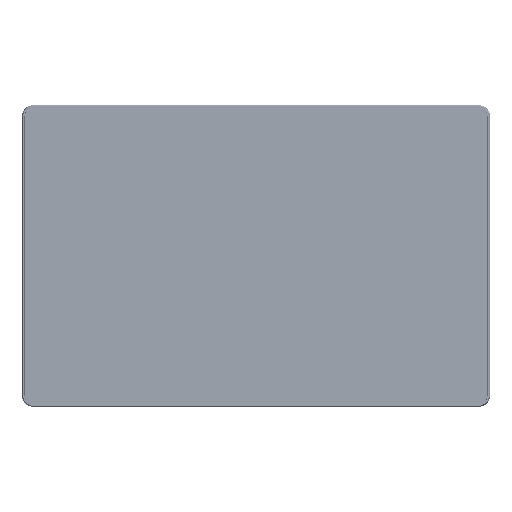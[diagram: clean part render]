
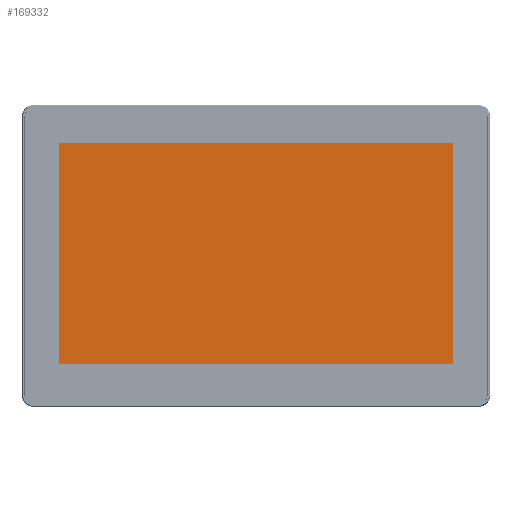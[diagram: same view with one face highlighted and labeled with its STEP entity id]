
A CAD part, top view. The second image highlights one B-rep face of the part: STEP entity #169332.
In plain terms, the highlighted planar face has unit normal (0, 0, 1).
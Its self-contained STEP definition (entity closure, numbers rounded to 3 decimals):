
#2635 = VECTOR ( 'NONE', #269413, 1000. ) ;
#10203 = EDGE_CURVE ( 'NONE', #57799, #190001, #176041, .T. ) ;
#12793 = LINE ( 'NONE', #130580, #98405 ) ;
#15147 = ORIENTED_EDGE ( 'NONE', *, *, #202396, .F. ) ;
#15370 = CARTESIAN_POINT ( 'NONE',  ( -172.75, 0.66, 1.809 ) ) ;
#24996 = PLANE ( 'NONE',  #76168 ) ;
#26488 = DIRECTION ( 'NONE',  ( 0., 1., 0. ) ) ;
#43425 = FACE_OUTER_BOUND ( 'NONE', #49850, .T. ) ;
#43500 = CARTESIAN_POINT ( 'NONE',  ( 0., -96.74, 1.809 ) ) ;
#45905 = CARTESIAN_POINT ( 'NONE',  ( 172.75, 98.06, 1.809 ) ) ;
#47985 = DIRECTION ( 'NONE',  ( 0., 0., -1. ) ) ;
#48055 = LINE ( 'NONE', #43500, #110900 ) ;
#49850 = EDGE_LOOP ( 'NONE', ( #296313, #15147, #251440, #152094 ) ) ;
#57799 = VERTEX_POINT ( 'NONE', #203013 ) ;
#75484 = VECTOR ( 'NONE', #79400, 1000. ) ;
#76168 = AXIS2_PLACEMENT_3D ( 'NONE', #190220, #47985, #26488 ) ;
#79400 = DIRECTION ( 'NONE',  ( 0., -1., 0. ) ) ;
#79861 = VERTEX_POINT ( 'NONE', #246865 ) ;
#95443 = EDGE_CURVE ( 'NONE', #190001, #95803, #12793, .T. ) ;
#95803 = VERTEX_POINT ( 'NONE', #45905 ) ;
#98405 = VECTOR ( 'NONE', #173476, 1000. ) ;
#110900 = VECTOR ( 'NONE', #254648, 1000. ) ;
#130580 = CARTESIAN_POINT ( 'NONE',  ( 0., 98.06, 1.809 ) ) ;
#131231 = CARTESIAN_POINT ( 'NONE',  ( -172.75, 98.06, 1.809 ) ) ;
#152094 = ORIENTED_EDGE ( 'NONE', *, *, #10203, .F. ) ;
#169332 = ADVANCED_FACE ( 'NONE', ( #43425 ), #24996, .F. ) ;
#173476 = DIRECTION ( 'NONE',  ( 1., 0., 0. ) ) ;
#176041 = LINE ( 'NONE', #15370, #2635 ) ;
#190001 = VERTEX_POINT ( 'NONE', #131231 ) ;
#190220 = CARTESIAN_POINT ( 'NONE',  ( 0., 0.66, 1.809 ) ) ;
#195662 = LINE ( 'NONE', #289074, #75484 ) ;
#202396 = EDGE_CURVE ( 'NONE', #95803, #79861, #195662, .T. ) ;
#203013 = CARTESIAN_POINT ( 'NONE',  ( -172.75, -96.74, 1.809 ) ) ;
#246865 = CARTESIAN_POINT ( 'NONE',  ( 172.75, -96.74, 1.809 ) ) ;
#251440 = ORIENTED_EDGE ( 'NONE', *, *, #95443, .F. ) ;
#254648 = DIRECTION ( 'NONE',  ( -1., 0., 0. ) ) ;
#269413 = DIRECTION ( 'NONE',  ( 0., 1., 0. ) ) ;
#282597 = EDGE_CURVE ( 'NONE', #79861, #57799, #48055, .T. ) ;
#289074 = CARTESIAN_POINT ( 'NONE',  ( 172.75, 0.66, 1.809 ) ) ;
#296313 = ORIENTED_EDGE ( 'NONE', *, *, #282597, .F. ) ;
